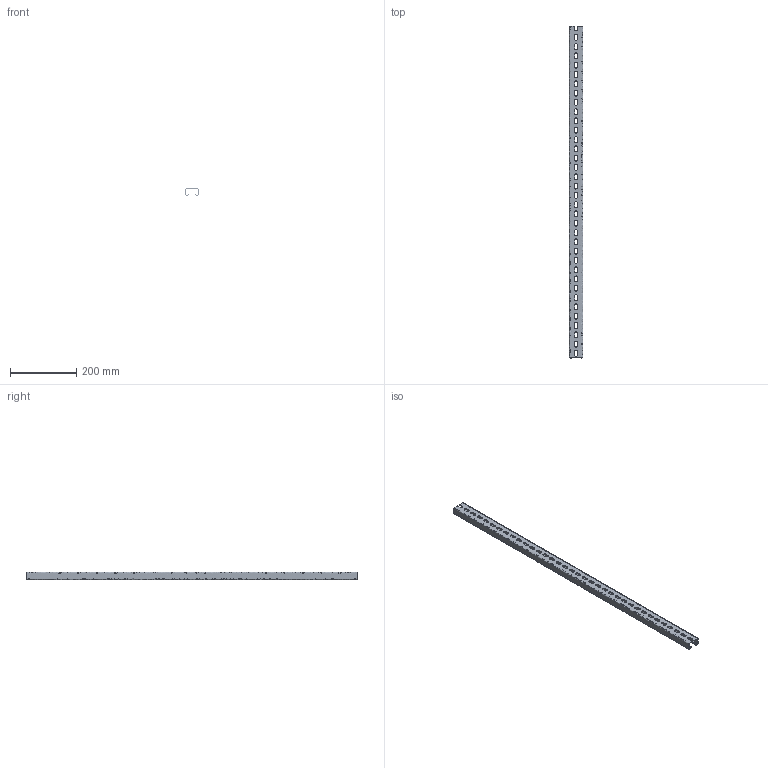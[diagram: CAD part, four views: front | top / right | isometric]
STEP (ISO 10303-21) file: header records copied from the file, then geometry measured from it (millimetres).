
FILE_DESCRIPTION(/* description */ (''),/* implementation_level */ '2;1');
FILE_NAME(/* name */ 'STNM-2~1',/* time_stamp */ '2025-03-13T21:07:06+01:00',/* author */ (''),/* organization */ (''),/* preprocessor_version */ 'ST-DEVELOPER v16.5',/* originating_system */ '',/* authorisation */ '');
FILE_SCHEMA (('CONFIG_CONTROL_DESIGN'));
Length unit declared in the file: millimetre
Products named in the file (1): Document
Bounding box: 40 x 1000 x 22 mm (x, y, z)
Volume: 92939.8 mm3; surface area: 188495.1 mm2
Topology: 1 solids, 1 shells, 44 faces, 126 edges, 84 vertices
Faces by surface type: bspline 39, plane 5
Entity records: 3626 total; most frequent: CARTESIAN_POINT 2743, ORIENTED_EDGE 252, EDGE_CURVE 126, EDGE_LOOP 114, VERTEX_POINT 84, FACE_BOUND 70, ADVANCED_FACE 44, FACE_OUTER_BOUND 44
